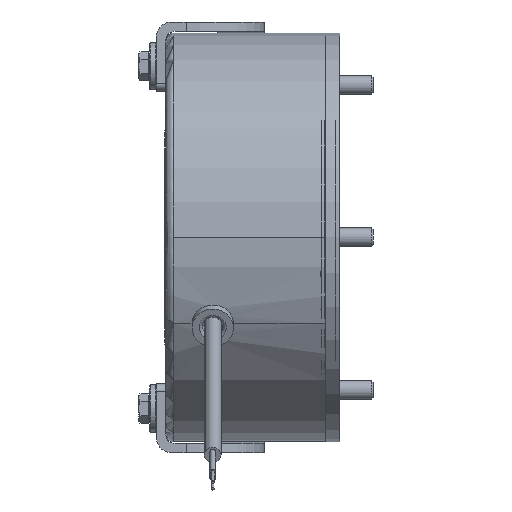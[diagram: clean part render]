
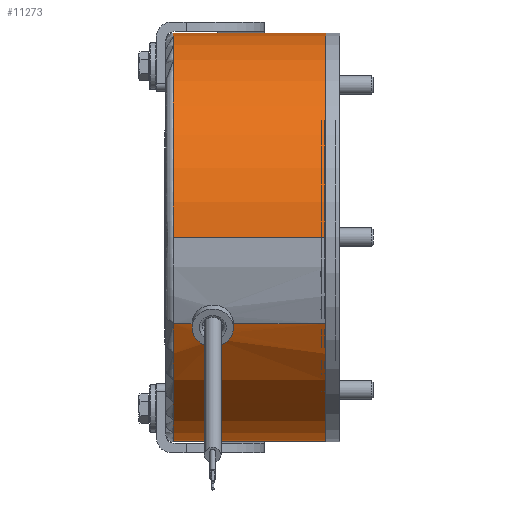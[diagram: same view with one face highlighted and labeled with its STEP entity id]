
A CAD part, front view. The second image highlights one B-rep face of the part: STEP entity #11273.
In plain terms, the highlighted cylindrical face has radius 65 mm (diameter 130 mm), a partial arc.
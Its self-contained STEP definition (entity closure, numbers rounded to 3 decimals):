
#476=B_SPLINE_CURVE_WITH_KNOTS('',3,(#18089,#18090,#18091,#18092,#18093,
#18094,#18095,#18096,#18097,#18098,#18099,#18100,#18101),.UNSPECIFIED.,
 .F.,.F.,(4,1,1,1,1,1,1,1,1,1,4),(-1.74,-1.657,-1.491,
-0.994,-0.746,-0.621,-0.497,
-0.373,-0.249,-0.124,0.),
 .UNSPECIFIED.);
#805=FACE_OUTER_BOUND('',#1434,.T.);
#1434=EDGE_LOOP('',(#7535,#7536,#7537,#7538,#7539,#7540,#7541,#7542,#7543,
#7544,#7545));
#2155=LINE('',#18071,#2739);
#2156=LINE('',#18079,#2740);
#2157=LINE('',#18085,#2741);
#2158=LINE('',#18087,#2742);
#2159=LINE('',#18102,#2743);
#2739=VECTOR('',#13853,65.);
#2740=VECTOR('',#13860,65.);
#2741=VECTOR('',#13865,65.);
#2742=VECTOR('',#13866,10.);
#2743=VECTOR('',#13867,10.);
#3353=CIRCLE('',#12061,65.);
#3354=CIRCLE('',#12062,65.);
#3355=CIRCLE('',#12063,65.);
#3356=CIRCLE('',#12064,65.);
#3357=CIRCLE('',#12065,65.);
#4255=VERTEX_POINT('',#18069);
#4256=VERTEX_POINT('',#18070);
#4257=VERTEX_POINT('',#18072);
#4258=VERTEX_POINT('',#18074);
#4259=VERTEX_POINT('',#18076);
#4260=VERTEX_POINT('',#18078);
#4261=VERTEX_POINT('',#18080);
#4262=VERTEX_POINT('',#18082);
#4263=VERTEX_POINT('',#18084);
#4264=VERTEX_POINT('',#18086);
#4265=VERTEX_POINT('',#18088);
#5512=EDGE_CURVE('',#4255,#4256,#2155,.T.);
#5513=EDGE_CURVE('',#4257,#4255,#3353,.T.);
#5514=EDGE_CURVE('',#4258,#4257,#3354,.T.);
#5515=EDGE_CURVE('',#4259,#4258,#3355,.T.);
#5516=EDGE_CURVE('',#4260,#4259,#2156,.T.);
#5517=EDGE_CURVE('',#4261,#4260,#3356,.T.);
#5518=EDGE_CURVE('',#4262,#4261,#3357,.T.);
#5519=EDGE_CURVE('',#4263,#4262,#2157,.T.);
#5520=EDGE_CURVE('',#4264,#4263,#2158,.T.);
#5521=EDGE_CURVE('',#4265,#4264,#476,.T.);
#5522=EDGE_CURVE('',#4256,#4265,#2159,.T.);
#7535=ORIENTED_EDGE('',*,*,#5512,.F.);
#7536=ORIENTED_EDGE('',*,*,#5513,.F.);
#7537=ORIENTED_EDGE('',*,*,#5514,.F.);
#7538=ORIENTED_EDGE('',*,*,#5515,.F.);
#7539=ORIENTED_EDGE('',*,*,#5516,.F.);
#7540=ORIENTED_EDGE('',*,*,#5517,.F.);
#7541=ORIENTED_EDGE('',*,*,#5518,.F.);
#7542=ORIENTED_EDGE('',*,*,#5519,.F.);
#7543=ORIENTED_EDGE('',*,*,#5520,.F.);
#7544=ORIENTED_EDGE('',*,*,#5521,.F.);
#7545=ORIENTED_EDGE('',*,*,#5522,.F.);
#10280=CYLINDRICAL_SURFACE('',#12060,65.);
#11273=ADVANCED_FACE('',(#805),#10280,.T.);
#12060=AXIS2_PLACEMENT_3D('',#18068,#13851,#13852);
#12061=AXIS2_PLACEMENT_3D('',#18073,#13854,#13855);
#12062=AXIS2_PLACEMENT_3D('',#18075,#13856,#13857);
#12063=AXIS2_PLACEMENT_3D('',#18077,#13858,#13859);
#12064=AXIS2_PLACEMENT_3D('',#18081,#13861,#13862);
#12065=AXIS2_PLACEMENT_3D('',#18083,#13863,#13864);
#13851=DIRECTION('center_axis',(1.,0.,0.));
#13852=DIRECTION('ref_axis',(0.,0.906,0.423));
#13853=DIRECTION('',(1.,0.,0.));
#13854=DIRECTION('center_axis',(-1.,0.,0.));
#13855=DIRECTION('ref_axis',(0.,-1.,0.));
#13856=DIRECTION('center_axis',(-1.,0.,0.));
#13857=DIRECTION('ref_axis',(0.,-1.,0.));
#13858=DIRECTION('center_axis',(-1.,0.,0.));
#13859=DIRECTION('ref_axis',(0.,-1.,0.));
#13860=DIRECTION('',(-1.,0.,0.));
#13861=DIRECTION('center_axis',(1.,0.,0.));
#13862=DIRECTION('ref_axis',(0.,1.,0.));
#13863=DIRECTION('center_axis',(1.,0.,0.));
#13864=DIRECTION('ref_axis',(0.,1.,0.));
#13865=DIRECTION('',(1.,0.,0.));
#13866=DIRECTION('',(1.,0.,0.));
#13867=DIRECTION('',(1.,0.,0.));
#18068=CARTESIAN_POINT('Origin',(-25.425,0.,0.));
#18069=CARTESIAN_POINT('',(-48.35,-58.91,-27.47));
#18070=CARTESIAN_POINT('',(-42.45,-58.91,-27.47));
#18071=CARTESIAN_POINT('',(-25.425,-58.91,-27.47));
#18072=CARTESIAN_POINT('',(-48.35,65.,0.));
#18073=CARTESIAN_POINT('Origin',(-48.35,0.,0.));
#18074=CARTESIAN_POINT('',(-48.35,0.,65.));
#18075=CARTESIAN_POINT('Origin',(-48.35,0.,0.));
#18076=CARTESIAN_POINT('',(-48.35,-65.,0.));
#18077=CARTESIAN_POINT('Origin',(-48.35,0.,0.));
#18078=CARTESIAN_POINT('',(0.,-65.,0.));
#18079=CARTESIAN_POINT('',(-25.425,-65.,0.));
#18080=CARTESIAN_POINT('',(0.,65.,0.));
#18081=CARTESIAN_POINT('Origin',(0.,0.,0.));
#18082=CARTESIAN_POINT('',(0.,-58.91,-27.47));
#18083=CARTESIAN_POINT('Origin',(0.,0.,0.));
#18084=CARTESIAN_POINT('',(-29.25,-58.91,-27.47));
#18085=CARTESIAN_POINT('',(-25.425,-58.91,-27.47));
#18086=CARTESIAN_POINT('',(-30.25,-58.91,-27.47));
#18087=CARTESIAN_POINT('',(-25.425,-58.91,-27.47));
#18088=CARTESIAN_POINT('',(-41.45,-58.91,-27.47));
#18089=CARTESIAN_POINT('Ctrl Pts',(-41.45,-58.91,
-27.47));
#18090=CARTESIAN_POINT('Ctrl Pts',(-41.451,-58.79,
-27.727));
#18091=CARTESIAN_POINT('Ctrl Pts',(-41.392,-58.426,
-28.498));
#18092=CARTESIAN_POINT('Ctrl Pts',(-40.65,-57.316,
-30.716));
#18093=CARTESIAN_POINT('Ctrl Pts',(-38.008,-56.251,
-32.571));
#18094=CARTESIAN_POINT('Ctrl Pts',(-34.996,-56.258,
-32.559));
#18095=CARTESIAN_POINT('Ctrl Pts',(-33.36,-56.546,
-32.056));
#18096=CARTESIAN_POINT('Ctrl Pts',(-32.165,-56.933,
-31.368));
#18097=CARTESIAN_POINT('Ctrl Pts',(-31.191,-57.459,
-30.396));
#18098=CARTESIAN_POINT('Ctrl Pts',(-30.56,-58.031,
-29.291));
#18099=CARTESIAN_POINT('Ctrl Pts',(-30.277,-58.558,
-28.22));
#18100=CARTESIAN_POINT('Ctrl Pts',(-30.25,-58.791,
-27.724));
#18101=CARTESIAN_POINT('Ctrl Pts',(-30.25,-58.91,
-27.47));
#18102=CARTESIAN_POINT('',(-25.425,-58.91,-27.47));
